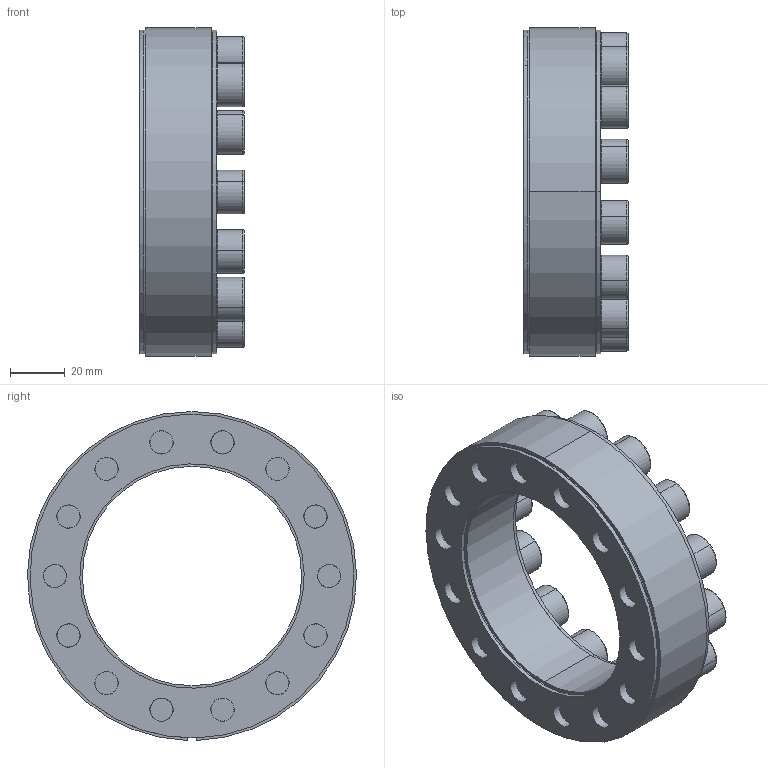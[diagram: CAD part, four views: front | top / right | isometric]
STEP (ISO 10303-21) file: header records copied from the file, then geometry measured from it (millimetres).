
FILE_DESCRIPTION (( 'STEP AP203' ), '1' );
FILE_NAME ('SAPL-D1-80-120.STEP', '2016-08-18T03:15:20', ( '' ), ( '' ), 'SwSTEP 2.0', 'SolidWorks 2015', '' );
FILE_SCHEMA (( 'CONFIG_CONTROL_DESIGN' ));
Length unit declared in the file: millimetre
Products named in the file (1): SAPL-D1-80-120
Bounding box: 38 x 119.99 x 119.98 mm (x, y, z)
Volume: 175760.7 mm3; surface area: 63558.9 mm2
Topology: 1 solids, 1 shells, 532 faces, 1228 edges, 724 vertices
Faces by surface type: plane 222, cylinder 156, torus 84, cone 70
Entity records: 15019 total; most frequent: DIRECTION 2864, CARTESIAN_POINT 2529, ORIENTED_EDGE 2400, EDGE_CURVE 1200, AXIS2_PLACEMENT_3D 1147, VERTEX_POINT 724, EDGE_LOOP 620, CIRCLE 614
